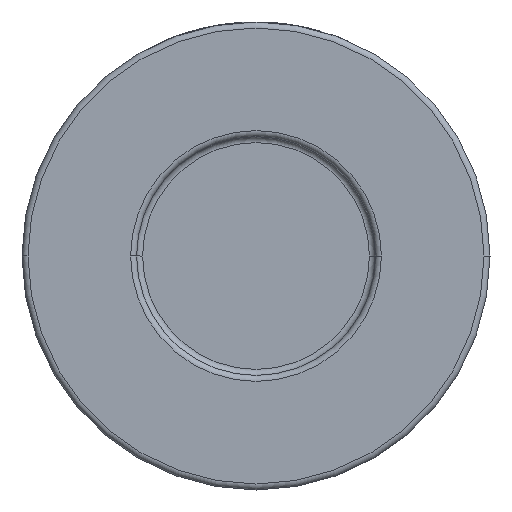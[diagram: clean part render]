
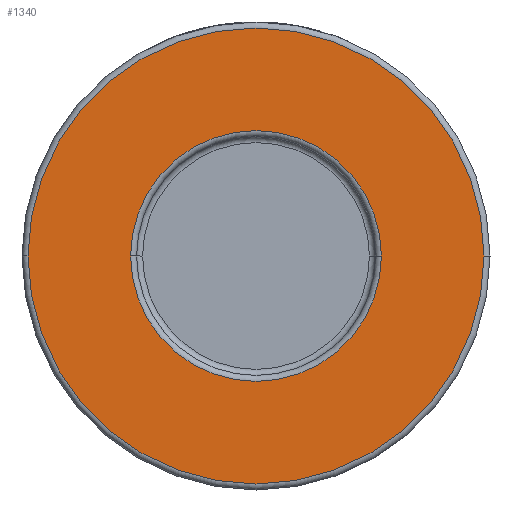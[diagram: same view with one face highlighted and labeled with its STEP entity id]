
A CAD part, front view. The second image highlights one B-rep face of the part: STEP entity #1340.
In plain terms, the highlighted planar face has unit normal (0, -1, 0).
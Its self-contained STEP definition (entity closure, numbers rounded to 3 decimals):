
#38 = CARTESIAN_POINT ( 'NONE',  ( 0., -19., 0. ) ) ;
#218 = EDGE_CURVE ( 'NONE', #1955, #1324, #990, .T. ) ;
#368 = DIRECTION ( 'NONE',  ( 0., -1., 0. ) ) ;
#431 = DIRECTION ( 'NONE',  ( 0., 1., 0. ) ) ;
#610 = CARTESIAN_POINT ( 'NONE',  ( -38., -19., 0. ) ) ;
#732 = CARTESIAN_POINT ( 'NONE',  ( 20.9, -19., 0. ) ) ;
#802 = CARTESIAN_POINT ( 'NONE',  ( 39., -19., 0. ) ) ;
#861 = AXIS2_PLACEMENT_3D ( 'NONE', #38, #431, #2891 ) ;
#990 = CIRCLE ( 'NONE', #2756, 20.9 ) ;
#1067 = DIRECTION ( 'NONE',  ( 1., 0., 0. ) ) ;
#1324 = VERTEX_POINT ( 'NONE', #732 ) ;
#1338 = CARTESIAN_POINT ( 'NONE',  ( -20.9, -19., 0. ) ) ;
#1340 = ADVANCED_FACE ( 'NONE', ( #2142, #3551 ), #3968, .T. ) ;
#1394 = VERTEX_POINT ( 'NONE', #610 ) ;
#1523 = ORIENTED_EDGE ( 'NONE', *, *, #3813, .T. ) ;
#1645 = DIRECTION ( 'NONE',  ( 1., 0., 0. ) ) ;
#1744 = CIRCLE ( 'NONE', #861, 20.9 ) ;
#1784 = DIRECTION ( 'NONE',  ( 1., 0., 0. ) ) ;
#1936 = EDGE_LOOP ( 'NONE', ( #2811, #2249 ) ) ;
#1955 = VERTEX_POINT ( 'NONE', #1338 ) ;
#1965 = CIRCLE ( 'NONE', #3733, 38. ) ;
#2051 = AXIS2_PLACEMENT_3D ( 'NONE', #3539, #368, #1784 ) ;
#2142 = FACE_BOUND ( 'NONE', #3634, .T. ) ;
#2249 = ORIENTED_EDGE ( 'NONE', *, *, #2291, .T. ) ;
#2291 = EDGE_CURVE ( 'NONE', #1394, #3217, #1965, .T. ) ;
#2654 = DIRECTION ( 'NONE',  ( 0., 1., 0. ) ) ;
#2756 = AXIS2_PLACEMENT_3D ( 'NONE', #3050, #2654, #3777 ) ;
#2811 = ORIENTED_EDGE ( 'NONE', *, *, #4382, .T. ) ;
#2891 = DIRECTION ( 'NONE',  ( 1., 0., 0. ) ) ;
#3050 = CARTESIAN_POINT ( 'NONE',  ( 0., -19., 0. ) ) ;
#3217 = VERTEX_POINT ( 'NONE', #3538 ) ;
#3404 = CARTESIAN_POINT ( 'NONE',  ( 0., -19., 0. ) ) ;
#3496 = AXIS2_PLACEMENT_3D ( 'NONE', #802, #3621, #1067 ) ;
#3538 = CARTESIAN_POINT ( 'NONE',  ( 38., -19., 0. ) ) ;
#3539 = CARTESIAN_POINT ( 'NONE',  ( 0., -19., 0. ) ) ;
#3551 = FACE_OUTER_BOUND ( 'NONE', #1936, .T. ) ;
#3621 = DIRECTION ( 'NONE',  ( 0., -1., 0. ) ) ;
#3634 = EDGE_LOOP ( 'NONE', ( #1523, #3661 ) ) ;
#3661 = ORIENTED_EDGE ( 'NONE', *, *, #218, .T. ) ;
#3733 = AXIS2_PLACEMENT_3D ( 'NONE', #3404, #4119, #1645 ) ;
#3777 = DIRECTION ( 'NONE',  ( 1., 0., 0. ) ) ;
#3813 = EDGE_CURVE ( 'NONE', #1324, #1955, #1744, .T. ) ;
#3968 = PLANE ( 'NONE',  #3496 ) ;
#4119 = DIRECTION ( 'NONE',  ( 0., -1., 0. ) ) ;
#4382 = EDGE_CURVE ( 'NONE', #3217, #1394, #4420, .T. ) ;
#4420 = CIRCLE ( 'NONE', #2051, 38. ) ;
